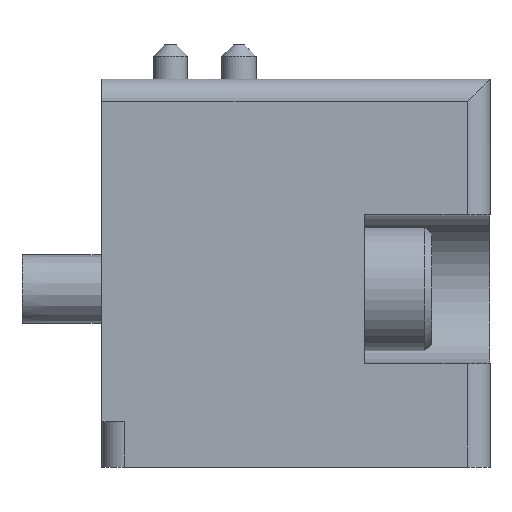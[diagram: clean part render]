
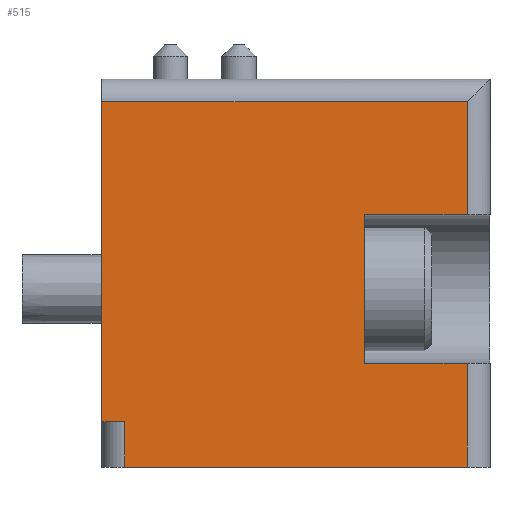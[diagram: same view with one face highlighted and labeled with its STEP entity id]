
A CAD part, left-side view. The second image highlights one B-rep face of the part: STEP entity #515.
In plain terms, the highlighted planar face has unit normal (-1, 0, 0).
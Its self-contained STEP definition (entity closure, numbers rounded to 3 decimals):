
#515=ADVANCED_FACE('',(#1109),#1110,.F.);
#1109=FACE_OUTER_BOUND('',#1736,.T.);
#1110=PLANE('',#1737);
#1736=EDGE_LOOP('',(#3095,#3096,#3097,#3098,#3099,#3100,#3101,#3102,#3103,#3104));
#1737=AXIS2_PLACEMENT_3D('',#3105,#3106,#3107);
#3095=ORIENTED_EDGE('',*,*,#3278,.T.);
#3096=ORIENTED_EDGE('',*,*,#3695,.T.);
#3097=ORIENTED_EDGE('',*,*,#3433,.F.);
#3098=ORIENTED_EDGE('',*,*,#3541,.T.);
#3099=ORIENTED_EDGE('',*,*,#3713,.F.);
#3100=ORIENTED_EDGE('',*,*,#3760,.T.);
#3101=ORIENTED_EDGE('',*,*,#3768,.T.);
#3102=ORIENTED_EDGE('',*,*,#3769,.T.);
#3103=ORIENTED_EDGE('',*,*,#3754,.T.);
#3104=ORIENTED_EDGE('',*,*,#3744,.T.);
#3105=CARTESIAN_POINT('',(-16.0,0.,9.2));
#3106=DIRECTION('',(1.0,0.0,0.0));
#3107=DIRECTION('',(0.0,1.0,0.0));
#3278=EDGE_CURVE('',#3819,#3821,#3823,.T.);
#3433=EDGE_CURVE('',#4083,#4085,#4086,.T.);
#3541=EDGE_CURVE('',#4083,#4230,#4233,.T.);
#3695=EDGE_CURVE('',#3821,#4085,#4451,.T.);
#3713=EDGE_CURVE('',#4480,#4230,#4481,.T.);
#3744=EDGE_CURVE('',#4520,#3819,#4521,.T.);
#3754=EDGE_CURVE('',#4532,#4520,#4533,.T.);
#3760=EDGE_CURVE('',#4480,#4538,#4540,.T.);
#3768=EDGE_CURVE('',#4538,#4548,#4549,.T.);
#3769=EDGE_CURVE('',#4548,#4532,#4550,.T.);
#3819=VERTEX_POINT('',#4649);
#3821=VERTEX_POINT('',#4652);
#3823=LINE('',#4654,#4655);
#4083=VERTEX_POINT('',#5017);
#4085=VERTEX_POINT('',#5019);
#4086=LINE('',#5020,#5021);
#4230=VERTEX_POINT('',#5215);
#4233=LINE('',#5218,#5219);
#4451=LINE('',#5536,#5537);
#4480=VERTEX_POINT('',#5576);
#4481=LINE('',#5577,#5578);
#4520=VERTEX_POINT('',#5629);
#4521=LINE('',#5630,#5631);
#4532=VERTEX_POINT('',#5645);
#4533=LINE('',#5646,#5647);
#4538=VERTEX_POINT('',#5652);
#4540=LINE('',#5655,#5656);
#4548=VERTEX_POINT('',#5665);
#4549=LINE('',#5666,#5667);
#4550=LINE('',#5668,#5669);
#4649=CARTESIAN_POINT('',(-16.0,0.,-5.8));
#4652=CARTESIAN_POINT('',(-16.0,-1.0,-5.8));
#4654=CARTESIAN_POINT('',(-16.0,0.,-5.8));
#4655=VECTOR('',#5734,1.0);
#5017=CARTESIAN_POINT('',(-16.0,-16.0,-7.8));
#5019=CARTESIAN_POINT('',(-16.0,-1.0,-7.8));
#5020=CARTESIAN_POINT('',(-16.0,-17.0,-7.8));
#5021=VECTOR('',#5912,1.0);
#5215=CARTESIAN_POINT('',(-16.0,-16.0,-3.25));
#5218=CARTESIAN_POINT('',(-16.0,-16.0,9.2));
#5219=VECTOR('',#6017,1.0);
#5536=CARTESIAN_POINT('',(-16.0,-1.0,-5.8));
#5537=VECTOR('',#6169,1.0);
#5576=CARTESIAN_POINT('',(-16.0,-11.5,-3.25));
#5577=CARTESIAN_POINT('',(-16.0,-11.5,-3.25));
#5578=VECTOR('',#6189,1.0);
#5629=CARTESIAN_POINT('',(-16.0,0.,8.2));
#5630=CARTESIAN_POINT('',(-16.0,0.,9.2));
#5631=VECTOR('',#6220,1.0);
#5645=CARTESIAN_POINT('',(-16.0,-16.0,8.2));
#5646=CARTESIAN_POINT('',(-16.0,0.,8.2));
#5647=VECTOR('',#6230,1.0);
#5652=CARTESIAN_POINT('',(-16.0,-11.5,3.25));
#5655=CARTESIAN_POINT('',(-16.0,-11.5,-3.25));
#5656=VECTOR('',#6235,1.0);
#5665=CARTESIAN_POINT('',(-16.0,-16.0,3.25));
#5666=CARTESIAN_POINT('',(-16.0,-11.5,3.25));
#5667=VECTOR('',#6237,1.0);
#5668=CARTESIAN_POINT('',(-16.0,-16.0,9.2));
#5669=VECTOR('',#6238,1.0);
#5734=DIRECTION('',(0.0,-1.0,0.0));
#5912=DIRECTION('',(0.0,1.0,0.0));
#6017=DIRECTION('',(0.0,0.0,1.0));
#6169=DIRECTION('',(0.0,0.0,-1.0));
#6189=DIRECTION('',(0.0,-1.0,0.0));
#6220=DIRECTION('',(0.0,0.0,-1.0));
#6230=DIRECTION('',(0.0,1.0,0.0));
#6235=DIRECTION('',(0.0,0.0,1.0));
#6237=DIRECTION('',(0.0,-1.0,0.0));
#6238=DIRECTION('',(0.0,0.0,1.0));
